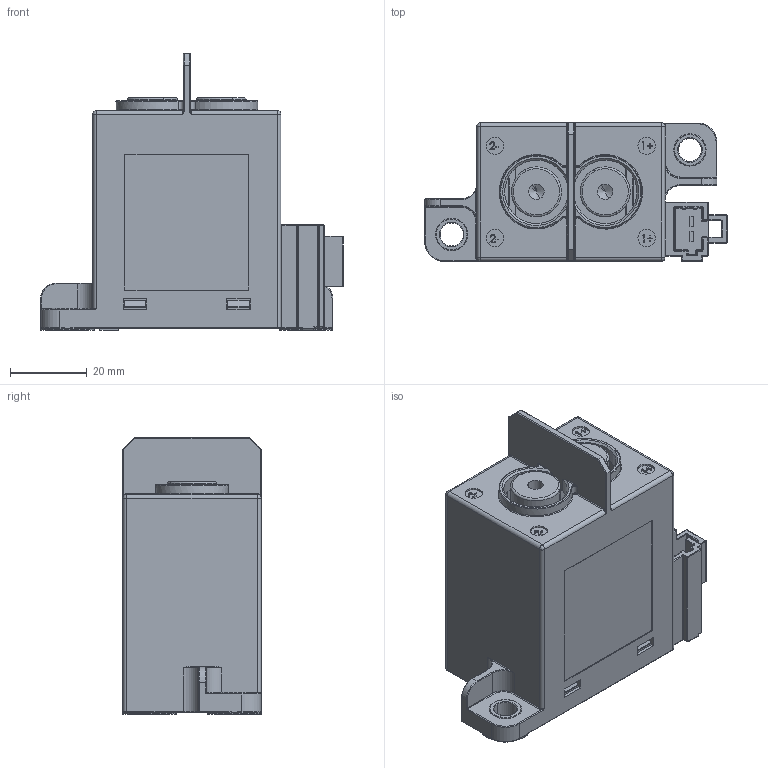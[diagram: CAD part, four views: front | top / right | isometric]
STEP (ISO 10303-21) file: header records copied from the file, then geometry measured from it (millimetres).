
FILE_DESCRIPTION (( 'STEP AP214' ), '1' );
FILE_NAME ('NDZ3AT-100D 立式插头外观模型.STEP', '2022-12-21T03:35:32', ( '' ), ( '' ), 'SwSTEP 2.0', 'SolidWorks 2018', '' );
FILE_SCHEMA (( 'AUTOMOTIVE_DESIGN' ));
Length unit declared in the file: millimetre
Products named in the file (7): NDZ3AT-100D 立式插头外观模型; 5LD.005.0104; 8LD.568.0003; 脣芛唳150D囀窒郪璃; 8LD.024.0311; 脣芛唳150D揖芛郪璃; 5LD.024.0152
Assembly tree (7 placements, depth 5):
  NDZ3AT-100D 立式插头外观模型
    5LD.005.0104
    8LD.024.0311
    脣芛唳150D囀窒郪璃
      脣芛唳150D揖芛郪璃
        5LD.024.0152
          8LD.568.0003  x2
Bounding box: 78.7 x 36 x 72 mm (x, y, z)
Volume: 26503.7 mm3; surface area: 36530.1 mm2
Topology: 6 solids, 6 shells, 1410 faces, 3483 edges, 2018 vertices
Faces by surface type: cylinder 582, plane 571, torus 153, sphere 59, bspline 38, cone 7
Entity records: 41418 total; most frequent: CARTESIAN_POINT 9363, ORIENTED_EDGE 6722, DIRECTION 6617, EDGE_CURVE 3361, AXIS2_PLACEMENT_3D 2249, VECTOR 2119, LINE 2119, VERTEX_POINT 1997
